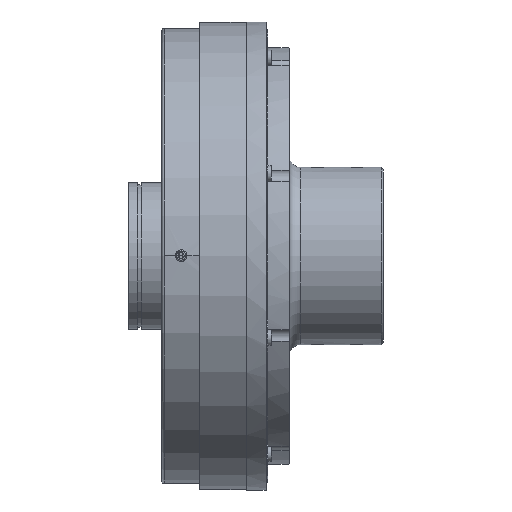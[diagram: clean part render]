
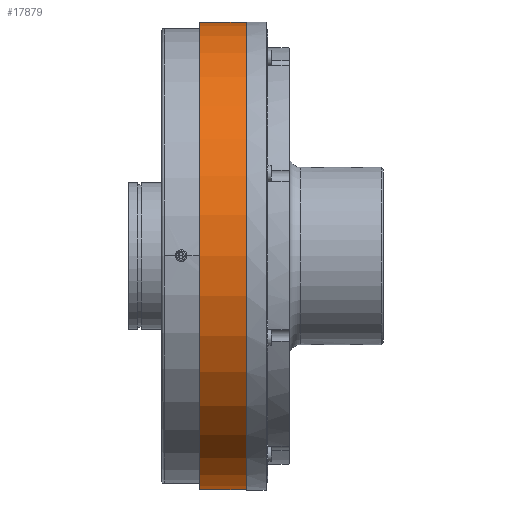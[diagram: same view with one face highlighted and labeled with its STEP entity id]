
A CAD part, top view. The second image highlights one B-rep face of the part: STEP entity #17879.
In plain terms, the highlighted cylindrical face has radius 302.5 mm (diameter 605 mm), a full revolution.
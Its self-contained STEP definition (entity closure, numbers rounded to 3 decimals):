
#1698=FACE_OUTER_BOUND('',#2645,.T.);
#2645=EDGE_LOOP('',(#13222,#13223,#13224,#13225,#13226,#13227));
#3806=LINE('',#28724,#4864);
#4864=VECTOR('',#22673,302.5);
#6028=CIRCLE('',#19237,302.5);
#6029=CIRCLE('',#19238,302.5);
#6030=CIRCLE('',#19240,302.5);
#6031=CIRCLE('',#19241,302.5);
#7694=VERTEX_POINT('',#28715);
#7695=VERTEX_POINT('',#28716);
#7696=VERTEX_POINT('',#28720);
#7697=VERTEX_POINT('',#28721);
#9811=EDGE_CURVE('',#7694,#7695,#6028,.T.);
#9812=EDGE_CURVE('',#7695,#7694,#6029,.T.);
#9813=EDGE_CURVE('',#7696,#7697,#6030,.T.);
#9814=EDGE_CURVE('',#7697,#7696,#6031,.T.);
#9815=EDGE_CURVE('',#7697,#7695,#3806,.T.);
#13222=ORIENTED_EDGE('',*,*,#9813,.F.);
#13223=ORIENTED_EDGE('',*,*,#9814,.F.);
#13224=ORIENTED_EDGE('',*,*,#9815,.T.);
#13225=ORIENTED_EDGE('',*,*,#9812,.T.);
#13226=ORIENTED_EDGE('',*,*,#9811,.T.);
#13227=ORIENTED_EDGE('',*,*,#9815,.F.);
#17338=CYLINDRICAL_SURFACE('',#19239,302.5);
#17879=ADVANCED_FACE('',(#1698),#17338,.T.);
#19237=AXIS2_PLACEMENT_3D('',#28717,#22663,#22664);
#19238=AXIS2_PLACEMENT_3D('',#28718,#22665,#22666);
#19239=AXIS2_PLACEMENT_3D('',#28719,#22667,#22668);
#19240=AXIS2_PLACEMENT_3D('',#28722,#22669,#22670);
#19241=AXIS2_PLACEMENT_3D('',#28723,#22671,#22672);
#22663=DIRECTION('center_axis',(1.,0.,0.));
#22664=DIRECTION('ref_axis',(0.,0.,-1.));
#22665=DIRECTION('center_axis',(1.,0.,0.));
#22666=DIRECTION('ref_axis',(0.,0.,-1.));
#22667=DIRECTION('center_axis',(1.,0.,0.));
#22668=DIRECTION('ref_axis',(0.,1.,0.));
#22669=DIRECTION('center_axis',(1.,0.,0.));
#22670=DIRECTION('ref_axis',(0.,0.,-1.));
#22671=DIRECTION('center_axis',(1.,0.,0.));
#22672=DIRECTION('ref_axis',(0.,0.,-1.));
#22673=DIRECTION('',(-1.,0.,0.));
#28715=CARTESIAN_POINT('',(17.7,302.5,0.));
#28716=CARTESIAN_POINT('',(17.7,-302.5,0.));
#28717=CARTESIAN_POINT('Origin',(17.7,0.,
0.));
#28718=CARTESIAN_POINT('Origin',(17.7,0.,
0.));
#28719=CARTESIAN_POINT('Origin',(47.7,0.,
0.));
#28720=CARTESIAN_POINT('',(77.7,302.5,0.));
#28721=CARTESIAN_POINT('',(77.7,-302.5,0.));
#28722=CARTESIAN_POINT('Origin',(77.7,0.,
0.));
#28723=CARTESIAN_POINT('Origin',(77.7,0.,
0.));
#28724=CARTESIAN_POINT('',(47.7,-302.5,0.));
